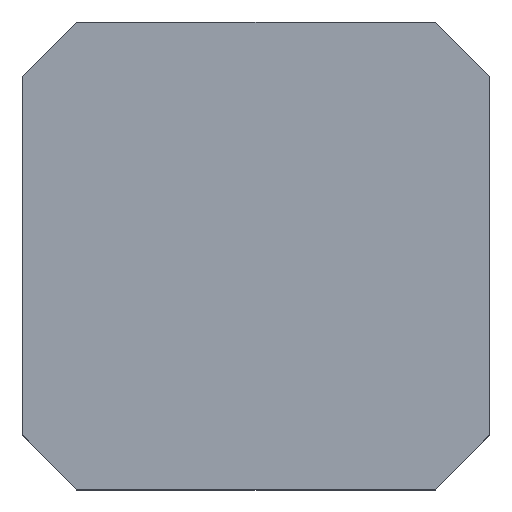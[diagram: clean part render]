
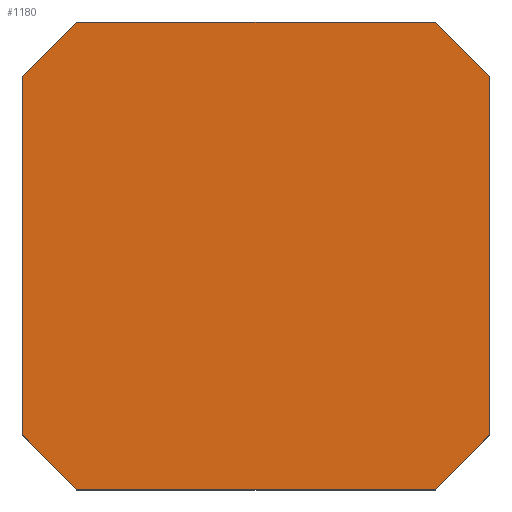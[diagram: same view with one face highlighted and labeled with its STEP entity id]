
A CAD part, top view. The second image highlights one B-rep face of the part: STEP entity #1180.
In plain terms, the highlighted planar face has unit normal (0, 0, 1).
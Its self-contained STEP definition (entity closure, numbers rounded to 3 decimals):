
#96=PLANE('',#1295);
#161=FACE_OUTER_BOUND('',#241,.T.);
#241=EDGE_LOOP('',(#1081,#1082,#1083,#1084,#1085,#1086,#1087,#1088));
#359=LINE('',#1907,#493);
#361=LINE('',#1911,#495);
#364=LINE('',#1916,#498);
#366=LINE('',#1920,#500);
#369=LINE('',#1925,#503);
#371=LINE('',#1929,#505);
#374=LINE('',#1934,#508);
#376=LINE('',#1937,#510);
#493=VECTOR('',#1568,10.);
#495=VECTOR('',#1572,10.);
#498=VECTOR('',#1577,10.);
#500=VECTOR('',#1581,10.);
#503=VECTOR('',#1586,10.);
#505=VECTOR('',#1590,10.);
#508=VECTOR('',#1595,10.);
#510=VECTOR('',#1599,10.);
#629=VERTEX_POINT('',#1904);
#630=VERTEX_POINT('',#1906);
#631=VERTEX_POINT('',#1910);
#632=VERTEX_POINT('',#1915);
#633=VERTEX_POINT('',#1919);
#634=VERTEX_POINT('',#1924);
#635=VERTEX_POINT('',#1928);
#636=VERTEX_POINT('',#1933);
#773=EDGE_CURVE('',#630,#629,#359,.T.);
#775=EDGE_CURVE('',#631,#630,#361,.T.);
#778=EDGE_CURVE('',#632,#631,#364,.T.);
#780=EDGE_CURVE('',#633,#632,#366,.T.);
#783=EDGE_CURVE('',#634,#633,#369,.T.);
#785=EDGE_CURVE('',#635,#634,#371,.T.);
#788=EDGE_CURVE('',#636,#635,#374,.T.);
#790=EDGE_CURVE('',#629,#636,#376,.T.);
#1081=ORIENTED_EDGE('',*,*,#790,.T.);
#1082=ORIENTED_EDGE('',*,*,#788,.T.);
#1083=ORIENTED_EDGE('',*,*,#785,.T.);
#1084=ORIENTED_EDGE('',*,*,#783,.T.);
#1085=ORIENTED_EDGE('',*,*,#780,.T.);
#1086=ORIENTED_EDGE('',*,*,#778,.T.);
#1087=ORIENTED_EDGE('',*,*,#775,.T.);
#1088=ORIENTED_EDGE('',*,*,#773,.T.);
#1180=ADVANCED_FACE('',(#161),#96,.T.);
#1295=AXIS2_PLACEMENT_3D('',#1938,#1600,#1601);
#1568=DIRECTION('',(0.,1.,0.));
#1572=DIRECTION('',(0.707,0.707,0.));
#1577=DIRECTION('',(1.,0.,0.));
#1581=DIRECTION('',(0.707,-0.707,0.));
#1586=DIRECTION('',(0.,-1.,0.));
#1590=DIRECTION('',(-0.707,-0.707,0.));
#1595=DIRECTION('',(-1.,0.,0.));
#1599=DIRECTION('',(-0.707,0.707,0.));
#1600=DIRECTION('center_axis',(0.,0.,1.));
#1601=DIRECTION('ref_axis',(1.,0.,0.));
#1904=CARTESIAN_POINT('',(21.,16.123,40.));
#1906=CARTESIAN_POINT('',(21.,-16.123,40.));
#1907=CARTESIAN_POINT('',(21.,-16.123,40.));
#1910=CARTESIAN_POINT('',(16.123,-21.,40.));
#1911=CARTESIAN_POINT('',(16.123,-21.,40.));
#1915=CARTESIAN_POINT('',(-16.123,-21.,40.));
#1916=CARTESIAN_POINT('',(-16.123,-21.,40.));
#1919=CARTESIAN_POINT('',(-21.,-16.123,40.));
#1920=CARTESIAN_POINT('',(-21.,-16.123,40.));
#1924=CARTESIAN_POINT('',(-21.,16.123,40.));
#1925=CARTESIAN_POINT('',(-21.,16.123,40.));
#1928=CARTESIAN_POINT('',(-16.123,21.,40.));
#1929=CARTESIAN_POINT('',(-16.123,21.,40.));
#1933=CARTESIAN_POINT('',(16.123,21.,40.));
#1934=CARTESIAN_POINT('',(16.123,21.,40.));
#1937=CARTESIAN_POINT('',(21.,16.123,40.));
#1938=CARTESIAN_POINT('Origin',(0.,0.,40.));
